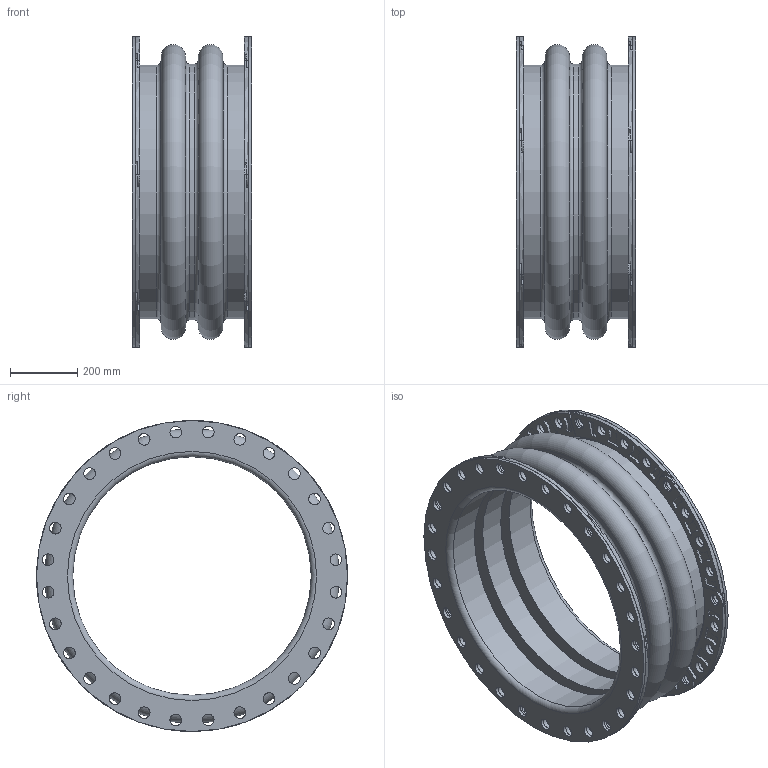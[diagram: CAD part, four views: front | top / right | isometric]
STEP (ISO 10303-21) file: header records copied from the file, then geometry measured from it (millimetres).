
FILE_DESCRIPTION(/* description */ (''),/* implementation_level */ '2;1');
FILE_NAME(/* name */ 'C:\001_Work\Designs\Mercer2014\MQInventor2014\RajR\500 Style\502\STP\502 28IDx14FF.stp',/* time_stamp */ '2016-03-16T15:26:42-04:00',/* author */ ('mquog'),/* organization */ (''),/* preprocessor_version */ 'ST-DEVELOPER v15.2',/* originating_system */ 'Autodesk Inventor 2014',/* authorisation */ '');
FILE_SCHEMA (('AUTOMOTIVE_DESIGN { 1 0 10303 214 3 1 1 }'));
Length unit declared in the file: centimetre
Products named in the file (1): 502 28IDx14FF
Bounding box: 355.6 x 927.1 x 927.1 mm (x, y, z)
Volume: 36964241.2 mm3; surface area: 4601258.3 mm2
Topology: 3 solids, 3 shells, 886 faces, 2398 edges, 1572 vertices
Faces by surface type: cylinder 638, plane 200, torus 40, cone 8
Full cylindrical faces by diameter (mm): 34.925 x126, 711.2 x3, 755.65 x2, 762 x1, 927.1 x2
Entity records: 29613 total; most frequent: DIRECTION 5366, CARTESIAN_POINT 5263, ORIENTED_EDGE 4488, AXIS2_PLACEMENT_3D 2291, EDGE_CURVE 2244, VERTEX_POINT 1572, CIRCLE 1404, EDGE_LOOP 1324
